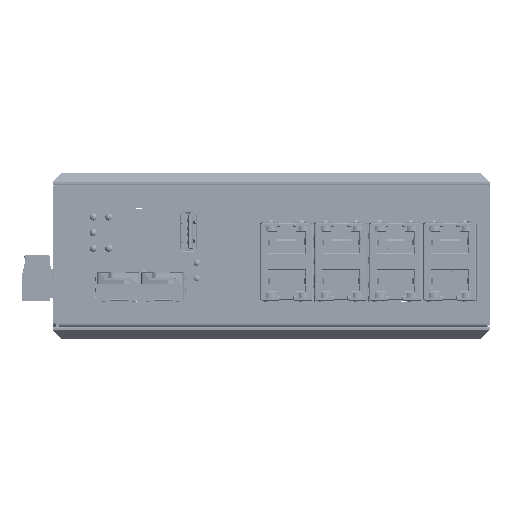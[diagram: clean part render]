
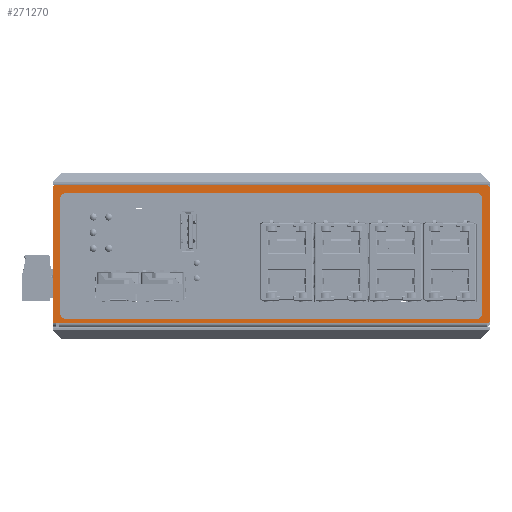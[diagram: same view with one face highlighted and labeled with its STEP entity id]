
A CAD part, front view. The second image highlights one B-rep face of the part: STEP entity #271270.
In plain terms, the highlighted planar face has unit normal (0, -1, 0).
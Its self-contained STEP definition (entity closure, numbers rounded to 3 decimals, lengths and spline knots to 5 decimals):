
#12625=CIRCLE('',#292286,0.001);
#12626=CIRCLE('',#292287,0.001);
#12627=CIRCLE('',#292288,0.001);
#12628=CIRCLE('',#292289,0.001);
#12629=CIRCLE('',#292290,0.002);
#12630=CIRCLE('',#292291,0.002);
#12631=CIRCLE('',#292292,0.002);
#12632=CIRCLE('',#292293,0.002);
#73527=ORIENTED_EDGE('',*,*,#122490,.F.);
#73528=ORIENTED_EDGE('',*,*,#122489,.T.);
#73529=ORIENTED_EDGE('',*,*,#122491,.F.);
#73530=ORIENTED_EDGE('',*,*,#122492,.T.);
#73531=ORIENTED_EDGE('',*,*,#122493,.F.);
#73532=ORIENTED_EDGE('',*,*,#122494,.T.);
#73533=ORIENTED_EDGE('',*,*,#122495,.F.);
#73534=ORIENTED_EDGE('',*,*,#122496,.F.);
#73535=ORIENTED_EDGE('',*,*,#122497,.T.);
#73536=ORIENTED_EDGE('',*,*,#122498,.F.);
#73537=ORIENTED_EDGE('',*,*,#122499,.F.);
#73538=ORIENTED_EDGE('',*,*,#122500,.T.);
#73539=ORIENTED_EDGE('',*,*,#122501,.F.);
#73540=ORIENTED_EDGE('',*,*,#122502,.T.);
#73541=ORIENTED_EDGE('',*,*,#122503,.F.);
#73542=ORIENTED_EDGE('',*,*,#122504,.T.);
#73543=ORIENTED_EDGE('',*,*,#122505,.F.);
#73544=ORIENTED_EDGE('',*,*,#122506,.T.);
#122489=EDGE_CURVE('',#151628,#151629,#180866,.T.);
#122490=EDGE_CURVE('',#151628,#151630,#12625,.T.);
#122491=EDGE_CURVE('',#151631,#151629,#12626,.T.);
#122492=EDGE_CURVE('',#151631,#151632,#180867,.T.);
#122493=EDGE_CURVE('',#151633,#151632,#12627,.T.);
#122494=EDGE_CURVE('',#151633,#151634,#180868,.T.);
#122495=EDGE_CURVE('',#151635,#151634,#12628,.T.);
#122496=EDGE_CURVE('',#151636,#151635,#180869,.T.);
#122497=EDGE_CURVE('',#151636,#151637,#180870,.T.);
#122498=EDGE_CURVE('',#151630,#151637,#180871,.T.);
#122499=EDGE_CURVE('',#151638,#151639,#12629,.T.);
#122500=EDGE_CURVE('',#151638,#151640,#180872,.T.);
#122501=EDGE_CURVE('',#151641,#151640,#12630,.T.);
#122502=EDGE_CURVE('',#151641,#151642,#180873,.T.);
#122503=EDGE_CURVE('',#151643,#151642,#12631,.T.);
#122504=EDGE_CURVE('',#151643,#151644,#180874,.T.);
#122505=EDGE_CURVE('',#151645,#151644,#12632,.T.);
#122506=EDGE_CURVE('',#151645,#151639,#180875,.T.);
#151628=VERTEX_POINT('',#447775);
#151629=VERTEX_POINT('',#447777);
#151630=VERTEX_POINT('',#447781);
#151631=VERTEX_POINT('',#447783);
#151632=VERTEX_POINT('',#447785);
#151633=VERTEX_POINT('',#447787);
#151634=VERTEX_POINT('',#447789);
#151635=VERTEX_POINT('',#447791);
#151636=VERTEX_POINT('',#447793);
#151637=VERTEX_POINT('',#447795);
#151638=VERTEX_POINT('',#447798);
#151639=VERTEX_POINT('',#447799);
#151640=VERTEX_POINT('',#447801);
#151641=VERTEX_POINT('',#447803);
#151642=VERTEX_POINT('',#447805);
#151643=VERTEX_POINT('',#447807);
#151644=VERTEX_POINT('',#447809);
#151645=VERTEX_POINT('',#447811);
#180866=LINE('',#447778,#211073);
#180867=LINE('',#447784,#211074);
#180868=LINE('',#447788,#211075);
#180869=LINE('',#447792,#211076);
#180870=LINE('',#447794,#211077);
#180871=LINE('',#447796,#211078);
#180872=LINE('',#447800,#211079);
#180873=LINE('',#447804,#211080);
#180874=LINE('',#447808,#211081);
#180875=LINE('',#447812,#211082);
#211073=VECTOR('',#353508,1.);
#211074=VECTOR('',#353515,1.);
#211075=VECTOR('',#353518,1.);
#211076=VECTOR('',#353521,1.);
#211077=VECTOR('',#353522,1.);
#211078=VECTOR('',#353523,1.);
#211079=VECTOR('',#353526,1.);
#211080=VECTOR('',#353529,1.);
#211081=VECTOR('',#353532,1.);
#211082=VECTOR('',#353535,1.);
#230378=EDGE_LOOP('',(#73527,#73528,#73529,#73530,#73531,#73532,#73533,
#73534,#73535,#73536));
#230379=EDGE_LOOP('',(#73537,#73538,#73539,#73540,#73541,#73542,#73543,
#73544));
#246664=FACE_BOUND('',#230378,.T.);
#246665=FACE_BOUND('',#230379,.T.);
#258208=PLANE('',#292285);
#271270=ADVANCED_FACE('',(#246664,#246665),#258208,.T.);
#292285=AXIS2_PLACEMENT_3D('',#447779,#353509,#353510);
#292286=AXIS2_PLACEMENT_3D('',#447780,#353511,#353512);
#292287=AXIS2_PLACEMENT_3D('',#447782,#353513,#353514);
#292288=AXIS2_PLACEMENT_3D('',#447786,#353516,#353517);
#292289=AXIS2_PLACEMENT_3D('',#447790,#353519,#353520);
#292290=AXIS2_PLACEMENT_3D('',#447797,#353524,#353525);
#292291=AXIS2_PLACEMENT_3D('',#447802,#353527,#353528);
#292292=AXIS2_PLACEMENT_3D('',#447806,#353530,#353531);
#292293=AXIS2_PLACEMENT_3D('',#447810,#353533,#353534);
#353508=DIRECTION('',(0.,0.,1.));
#353509=DIRECTION('',(0.,-1.,0.));
#353510=DIRECTION('',(1.,0.,0.));
#353511=DIRECTION('',(0.,1.,0.));
#353512=DIRECTION('',(1.,0.,0.));
#353513=DIRECTION('',(0.,1.,0.));
#353514=DIRECTION('',(0.,0.,1.));
#353515=DIRECTION('',(-1.,0.,0.));
#353516=DIRECTION('',(0.,1.,0.));
#353517=DIRECTION('',(-1.,0.,0.));
#353518=DIRECTION('',(0.,0.,-1.));
#353519=DIRECTION('',(0.,1.,0.));
#353520=DIRECTION('',(0.,0.,-1.));
#353521=DIRECTION('',(-1.,0.,0.));
#353522=DIRECTION('',(1.,0.,0.));
#353523=DIRECTION('',(-1.,0.,0.));
#353524=DIRECTION('',(0.,-1.,0.));
#353525=DIRECTION('',(0.,0.,1.));
#353526=DIRECTION('',(1.,0.,0.));
#353527=DIRECTION('',(0.,-1.,0.));
#353528=DIRECTION('',(1.,0.,0.));
#353529=DIRECTION('',(0.,0.,-1.));
#353530=DIRECTION('',(0.,-1.,0.));
#353531=DIRECTION('',(0.,0.,-1.));
#353532=DIRECTION('',(-1.,0.,0.));
#353533=DIRECTION('',(0.,-1.,0.));
#353534=DIRECTION('',(-1.,0.,0.));
#353535=DIRECTION('',(0.,0.,1.));
#447775=CARTESIAN_POINT('',(0.0705,-0.049,0.0011));
#447777=CARTESIAN_POINT('',(0.0705,-0.049,0.044));
#447778=CARTESIAN_POINT('',(0.0705,-0.049,0.0011));
#447779=CARTESIAN_POINT('',(0.,-0.049,0.));
#447780=CARTESIAN_POINT('',(0.0695,-0.049,0.0011));
#447781=CARTESIAN_POINT('',(0.0695,-0.049,0.0001));
#447782=CARTESIAN_POINT('',(0.0695,-0.049,0.044));
#447783=CARTESIAN_POINT('',(0.0695,-0.049,0.045));
#447784=CARTESIAN_POINT('',(0.0695,-0.049,0.045));
#447785=CARTESIAN_POINT('',(-0.0705,-0.049,0.045));
#447786=CARTESIAN_POINT('',(-0.0705,-0.049,0.044));
#447787=CARTESIAN_POINT('',(-0.0715,-0.049,0.044));
#447788=CARTESIAN_POINT('',(-0.0715,-0.049,0.044));
#447789=CARTESIAN_POINT('',(-0.0715,-0.049,0.0011));
#447790=CARTESIAN_POINT('',(-0.0705,-0.049,0.0011));
#447791=CARTESIAN_POINT('',(-0.0705,-0.049,0.0001));
#447792=CARTESIAN_POINT('',(-0.0694,-0.049,0.0001));
#447793=CARTESIAN_POINT('',(-0.0694,-0.049,0.0001));
#447794=CARTESIAN_POINT('',(-0.0694,-0.049,0.0001));
#447795=CARTESIAN_POINT('',(0.0694,-0.049,0.0001));
#447796=CARTESIAN_POINT('',(0.0695,-0.049,0.0001));
#447797=CARTESIAN_POINT('',(-0.067,-0.049,0.0405));
#447798=CARTESIAN_POINT('',(-0.067,-0.049,0.0425));
#447799=CARTESIAN_POINT('',(-0.069,-0.049,0.0405));
#447800=CARTESIAN_POINT('',(-0.067,-0.049,0.0425));
#447801=CARTESIAN_POINT('',(0.066,-0.049,0.0425));
#447802=CARTESIAN_POINT('',(0.066,-0.049,0.0405));
#447803=CARTESIAN_POINT('',(0.068,-0.049,0.0405));
#447804=CARTESIAN_POINT('',(0.068,-0.049,0.0405));
#447805=CARTESIAN_POINT('',(0.068,-0.049,0.0035));
#447806=CARTESIAN_POINT('',(0.066,-0.049,0.0035));
#447807=CARTESIAN_POINT('',(0.066,-0.049,0.0015));
#447808=CARTESIAN_POINT('',(0.066,-0.049,0.0015));
#447809=CARTESIAN_POINT('',(-0.067,-0.049,0.0015));
#447810=CARTESIAN_POINT('',(-0.067,-0.049,0.0035));
#447811=CARTESIAN_POINT('',(-0.069,-0.049,0.0035));
#447812=CARTESIAN_POINT('',(-0.069,-0.049,0.0035));
